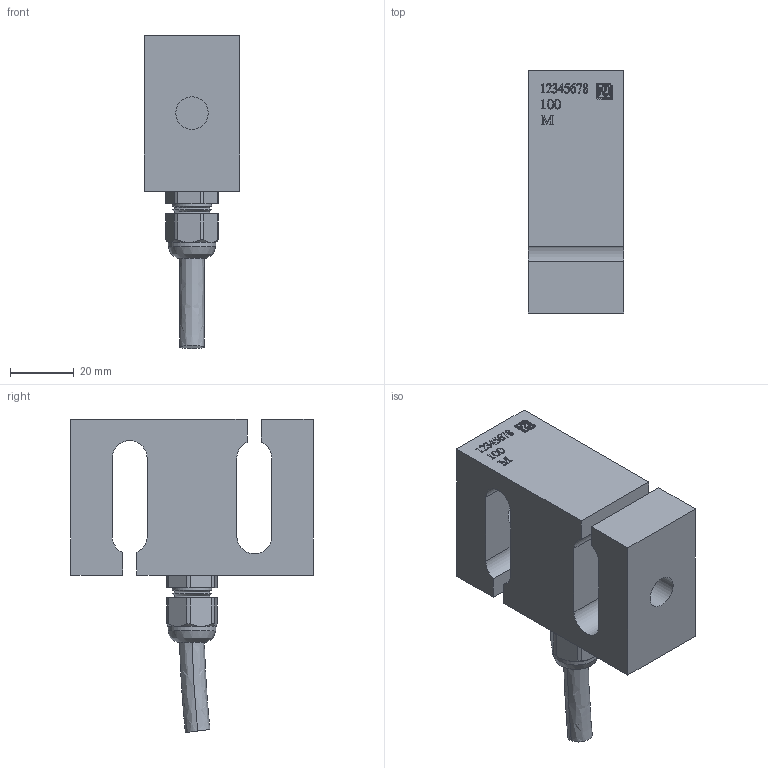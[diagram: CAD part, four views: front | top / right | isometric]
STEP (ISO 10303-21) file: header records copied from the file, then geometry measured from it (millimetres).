
FILE_DESCRIPTION(/* description */ (''),/* implementation_level */ '2;1');
FILE_NAME(/* name */ '//pdmuksvr/e/Marketing 2.0/1. Assets/10. CAD/Dumb CAD/ULB/ulb-100kg-outline.step',/* time_stamp */ '2021-11-09T08:20:35+00:00',/* author */ (''),/* organization */ (''),/* preprocessor_version */ 'ST-DEVELOPER v18.1',/* originating_system */ 'Autodesk Translation Framework v10.10.0.1391',/* authorisation */ '');
FILE_SCHEMA (('AUTOMOTIVE_DESIGN { 1 0 10303 214 3 1 1 }'));
Length unit declared in the file: millimetre
Products named in the file (4): ulb-100kg-outline; cableGland; cable; mainBody
Assembly tree (3 placements, depth 2):
  ulb-100kg-outline
    cableGland
    cable
    mainBody
Bounding box: 30 x 76.2 x 98.51 mm (x, y, z)
Volume: 91557.5 mm3; surface area: 24105.7 mm2
Topology: 4 solids, 4 shells, 466 faces, 1149 edges, 759 vertices
Faces by surface type: plane 183, bspline 160, cylinder 72, cone 49, torus 2
Full cylindrical faces by diameter (mm): 0.5 x47, 7.62 x2, 9.335 x2, 10.2 x2, 14.986 x1
Entity records: 18795 total; most frequent: CARTESIAN_POINT 8502, ORIENTED_EDGE 2298, DIRECTION 1681, EDGE_CURVE 1149, VERTEX_POINT 759, LINE 587, VECTOR 587, AXIS2_PLACEMENT_3D 547
